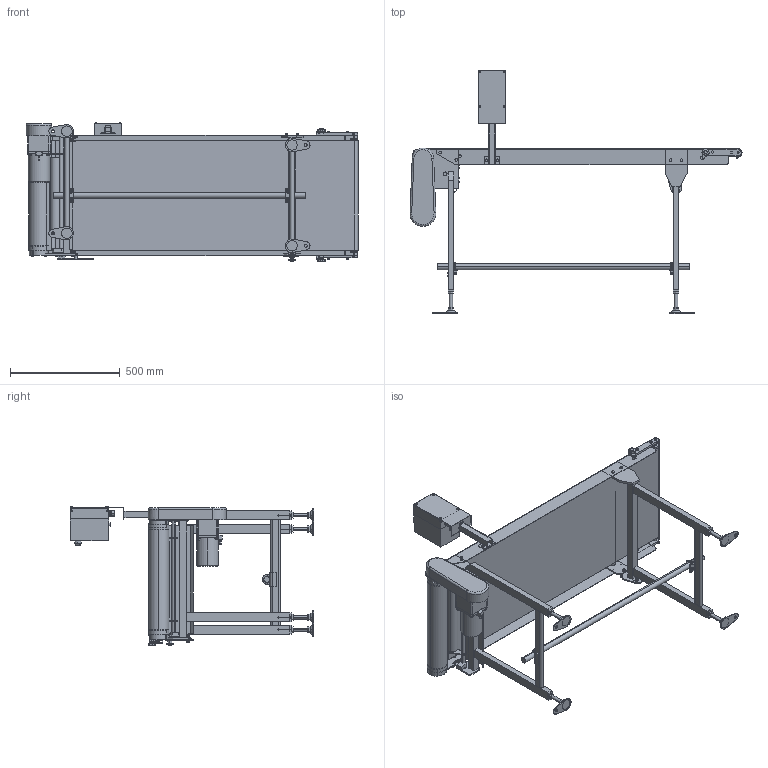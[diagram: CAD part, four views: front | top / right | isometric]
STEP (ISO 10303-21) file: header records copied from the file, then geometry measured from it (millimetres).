
FILE_DESCRIPTION( (''), '2;1');
FILE_NAME ('TBH200-UD-309-500-150-L-IVH-60.stp','2025-01-30T14:52:39',(''),(''),'spGate 20.6.2 (****-****-****-****)','','');
FILE_SCHEMA (('AUTOMOTIVE_DESIGN'));
Length unit declared in the file: millimetre
Products named in the file (79): NewModel; TEMP_X_T-prt0; TEMP_X_T-prt1; TEMP_X_T-prt2; TEMP_X_T-prt3; TEMP_X_T-prt4; TEMP_X_T-prt5; TEMP_X_T-prt6; TEMP_X_T-prt7; TEMP_X_T-prt8; TEMP_X_T-prt9; TEMP_X_T-prt10; TEMP_X_T-prt11; TEMP_X_T-prt12; TEMP_X_T-prt13; TEMP_X_T-prt14; TEMP_X_T-prt15; TEMP_X_T-prt16; TEMP_X_T-prt17; TEMP_X_T-prt18; TEMP_X_T-prt19; TEMP_X_T-prt20; TEMP_X_T-prt21; TEMP_X_T-prt22; TEMP_X_T-prt23; TEMP_X_T-prt24; TEMP_X_T-prt25; TEMP_X_T-prt26; TEMP_X_T-prt27; TEMP_X_T-prt28; TEMP_X_T-prt29; TEMP_X_T-prt30; TEMP_X_T-prt31; TEMP_X_T-prt32; TEMP_X_T-prt33; TEMP_X_T-prt34; TEMP_X_T-prt35; TEMP_X_T-prt36; TEMP_X_T-prt37; TEMP_X_T-prt38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
Assembly tree (78 placements, depth 2):
  NewModel
    TEMP_X_T-prt0
    TEMP_X_T-prt1
    TEMP_X_T-prt2
    TEMP_X_T-prt3
    TEMP_X_T-prt4
    TEMP_X_T-prt5
    TEMP_X_T-prt6
    TEMP_X_T-prt7
    TEMP_X_T-prt8
    TEMP_X_T-prt9
    TEMP_X_T-prt10
    TEMP_X_T-prt11
    TEMP_X_T-prt12
    TEMP_X_T-prt13
    TEMP_X_T-prt14
    TEMP_X_T-prt15
    TEMP_X_T-prt16
    TEMP_X_T-prt17
    TEMP_X_T-prt18
    TEMP_X_T-prt19
    TEMP_X_T-prt20
    TEMP_X_T-prt21
    TEMP_X_T-prt22
    TEMP_X_T-prt23
    TEMP_X_T-prt24
    TEMP_X_T-prt25
    TEMP_X_T-prt26
    TEMP_X_T-prt27
    TEMP_X_T-prt28
    TEMP_X_T-prt29
    TEMP_X_T-prt30
    TEMP_X_T-prt31
    TEMP_X_T-prt32
    TEMP_X_T-prt33
    TEMP_X_T-prt34
    TEMP_X_T-prt35
    TEMP_X_T-prt36
    TEMP_X_T-prt37
    TEMP_X_T-prt38
    TEMP_X_T-prt39
    TEMP_X_T-prt40
    TEMP_X_T-prt41
    TEMP_X_T-prt42
    TEMP_X_T-prt43
    TEMP_X_T-prt44
    TEMP_X_T-prt45
    TEMP_X_T-prt46
    TEMP_X_T-prt47
    TEMP_X_T-prt48
    TEMP_X_T-prt49
    TEMP_X_T-prt50
    TEMP_X_T-prt51
    TEMP_X_T-prt52
    TEMP_X_T-prt53
    TEMP_X_T-prt54
    TEMP_X_T-prt55
    TEMP_X_T-prt56
    TEMP_X_T-prt57
    TEMP_X_T-prt58
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Bounding box: 1515.49 x 1111 x 638.3 mm (x, y, z)
Volume: 21234174.4 mm3; surface area: 6984617.6 mm2
Topology: 78 solids, 78 shells, 2011 faces, 4726 edges, 3000 vertices
Faces by surface type: plane 1162, cylinder 571, bspline 268, sphere 10
Entity records: 102046 total; most frequent: CARTESIAN_POINT 15957, ORIENTED_EDGE 9416, DIRECTION 9312, COLOUR_RGB 6797, PRESENTATION_STYLE_ASSIGNMENT 6797, STYLED_ITEM 6797, EDGE_CURVE 4708, DRAUGHTING_PRE_DEFINED_CURVE_FONT 4708
